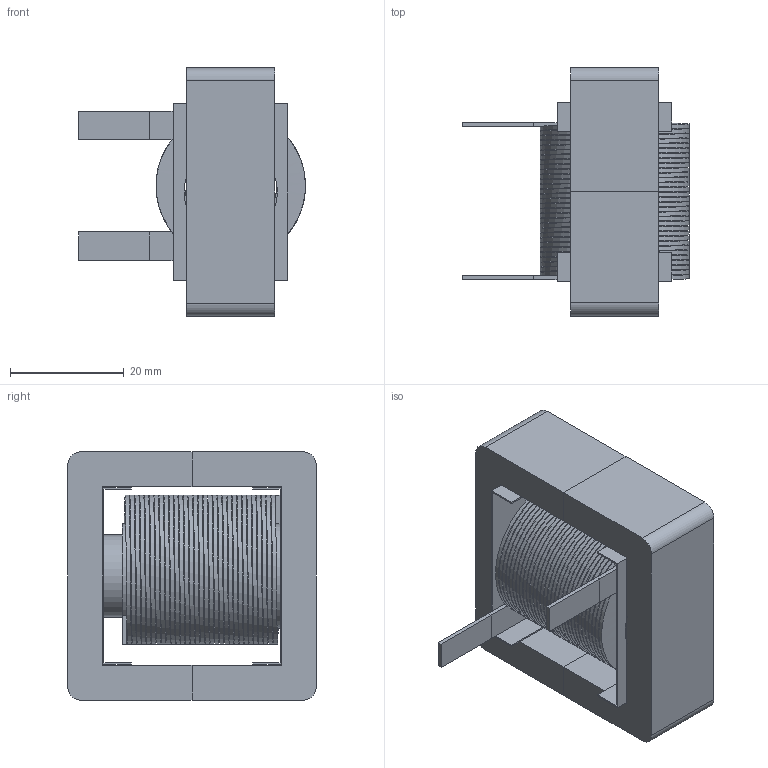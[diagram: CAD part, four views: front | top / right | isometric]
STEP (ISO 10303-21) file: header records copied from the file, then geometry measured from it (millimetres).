
FILE_DESCRIPTION (( 'STEP AP214' ), '1' );
FILE_NAME ('E70340-016 Assembly.STEP', '2019-07-20T22:51:59', ( '' ), ( '' ), 'SwSTEP 2.0', 'SolidWorks 2015', '' );
FILE_SCHEMA (( 'AUTOMOTIVE_DESIGN' ));
Length unit declared in the file: inch
Products named in the file (12): E70340-016 outer shielding; E70340-016 core; E70340-016 inner shielding; E70340-016 Assembly; E70340-016 coil
Assembly tree (7 placements, depth 2):
  E70340-016 outer shielding
  E70340-016 outer shielding
  E70340-016 core
  E70340-016 inner shielding
  E70340-016 Assembly
    E70340-016 coil
Bounding box: 39.84 x 43.61 x 43.61 mm (x, y, z)
Volume: 27619.6 mm3; surface area: 38590.9 mm2
Topology: 8 solids, 8 shells, 80 faces, 183 edges, 122 vertices
Faces by surface type: plane 66, cylinder 10, bspline 4
Full cylindrical faces by diameter (mm): 14.402 x2, 16.383 x2, 17.831 x1, 18.339 x1
Entity records: 8757 total; most frequent: CARTESIAN_POINT 6829, DIRECTION 246, ORIENTED_EDGE 228, EDGE_CURVE 114, LINE 94, VECTOR 94, VERTEX_POINT 76, AXIS2_PLACEMENT_3D 76
